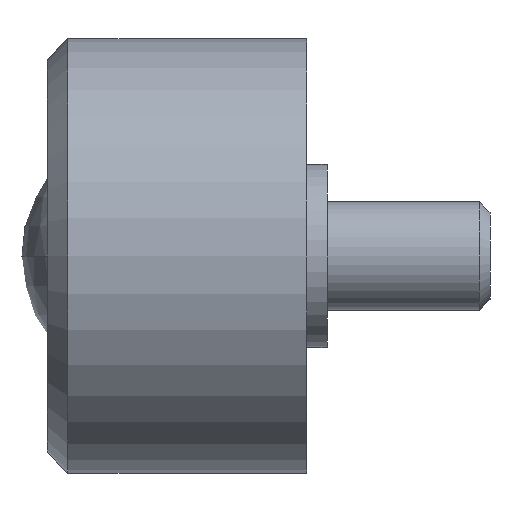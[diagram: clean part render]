
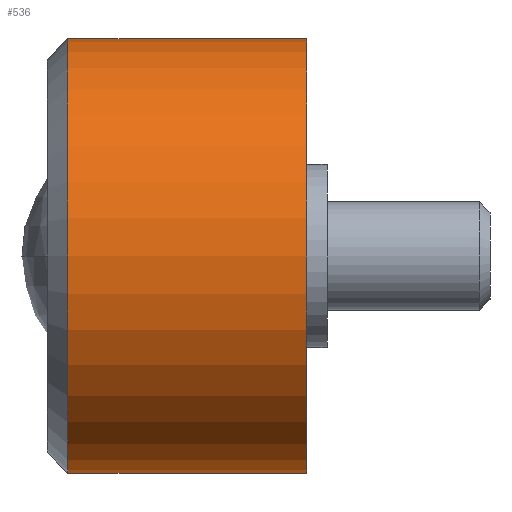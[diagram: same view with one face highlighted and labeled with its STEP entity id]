
A CAD part, left-side view. The second image highlights one B-rep face of the part: STEP entity #536.
In plain terms, the highlighted cylindrical face has radius 16 mm (diameter 32 mm), a partial arc.
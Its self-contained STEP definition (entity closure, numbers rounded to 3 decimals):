
#20 = DIRECTION ( 'NONE',  ( 0., 0., -1. ) ) ;
#25 = VECTOR ( 'NONE', #124, 1000. ) ;
#71 = CIRCLE ( 'NONE', #669, 16. ) ;
#75 = DIRECTION ( 'NONE',  ( 0., -1., 0. ) ) ;
#116 = DIRECTION ( 'NONE',  ( 0., 0., 1. ) ) ;
#124 = DIRECTION ( 'NONE',  ( 0., -1., 0. ) ) ;
#176 = EDGE_CURVE ( 'NONE', #213, #593, #413, .T. ) ;
#212 = VERTEX_POINT ( 'NONE', #659 ) ;
#213 = VERTEX_POINT ( 'NONE', #244 ) ;
#226 = ORIENTED_EDGE ( 'NONE', *, *, #514, .F. ) ;
#244 = CARTESIAN_POINT ( 'NONE',  ( 0., 17.6, 16. ) ) ;
#258 = CYLINDRICAL_SURFACE ( 'NONE', #363, 16. ) ;
#263 = EDGE_CURVE ( 'NONE', #213, #650, #71, .T. ) ;
#266 = DIRECTION ( 'NONE',  ( 0., 0., -1. ) ) ;
#286 = ORIENTED_EDGE ( 'NONE', *, *, #263, .T. ) ;
#317 = CARTESIAN_POINT ( 'NONE',  ( 0., 0., 0. ) ) ;
#321 = CIRCLE ( 'NONE', #430, 16. ) ;
#363 = AXIS2_PLACEMENT_3D ( 'NONE', #317, #483, #20 ) ;
#366 = LINE ( 'NONE', #467, #567 ) ;
#370 = DIRECTION ( 'NONE',  ( 0., -1., 0. ) ) ;
#413 = LINE ( 'NONE', #660, #25 ) ;
#430 = AXIS2_PLACEMENT_3D ( 'NONE', #431, #370, #266 ) ;
#431 = CARTESIAN_POINT ( 'NONE',  ( 0., 0., 0. ) ) ;
#457 = CARTESIAN_POINT ( 'NONE',  ( 0., 17.6, 0. ) ) ;
#460 = EDGE_LOOP ( 'NONE', ( #627, #286, #562, #226 ) ) ;
#463 = DIRECTION ( 'NONE',  ( 0., -1., 0. ) ) ;
#467 = CARTESIAN_POINT ( 'NONE',  ( 0., 0., -16. ) ) ;
#483 = DIRECTION ( 'NONE',  ( 0., -1., 0. ) ) ;
#514 = EDGE_CURVE ( 'NONE', #593, #212, #321, .T. ) ;
#536 = ADVANCED_FACE ( 'NONE', ( #553 ), #258, .T. ) ;
#553 = FACE_OUTER_BOUND ( 'NONE', #460, .T. ) ;
#562 = ORIENTED_EDGE ( 'NONE', *, *, #602, .T. ) ;
#567 = VECTOR ( 'NONE', #75, 1000. ) ;
#593 = VERTEX_POINT ( 'NONE', #708 ) ;
#602 = EDGE_CURVE ( 'NONE', #650, #212, #366, .T. ) ;
#627 = ORIENTED_EDGE ( 'NONE', *, *, #176, .F. ) ;
#629 = CARTESIAN_POINT ( 'NONE',  ( 0., 17.6, -16. ) ) ;
#650 = VERTEX_POINT ( 'NONE', #629 ) ;
#659 = CARTESIAN_POINT ( 'NONE',  ( 0., 0., -16. ) ) ;
#660 = CARTESIAN_POINT ( 'NONE',  ( 0., 0., 16. ) ) ;
#669 = AXIS2_PLACEMENT_3D ( 'NONE', #457, #463, #116 ) ;
#708 = CARTESIAN_POINT ( 'NONE',  ( 0., 0., 16. ) ) ;
